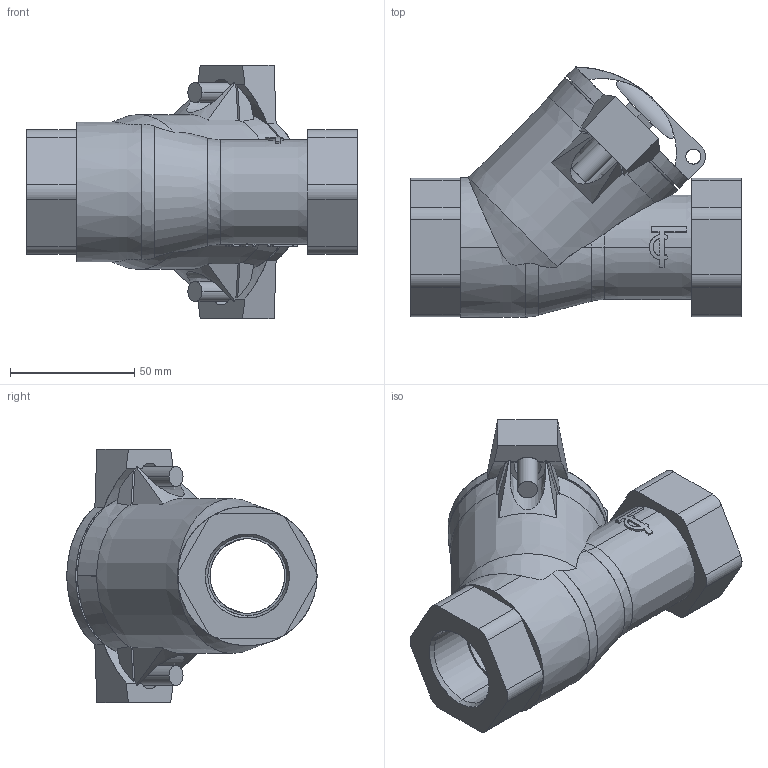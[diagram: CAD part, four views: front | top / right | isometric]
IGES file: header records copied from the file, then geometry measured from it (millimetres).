
Start section: SolidWorks IGES file using analytic representation for surfaces
Global section: file name: D:\part\3D Projects\CBL X141\DN 32.IGS; native system: SolidWorks 2009; preprocessor: SolidWorks 2009; author: zhixin.zheng; date: 100513.154244; units: millimetre
Bounding box: 133 x 100.54 x 102 mm (x, y, z)
Surface area: 63612.7 mm2 (no closed solid volume)
Topology: 0 solids, 0 shells, 288 faces, 2776 edges, 2774 vertices
Faces by surface type: bspline 195, revolution 93
